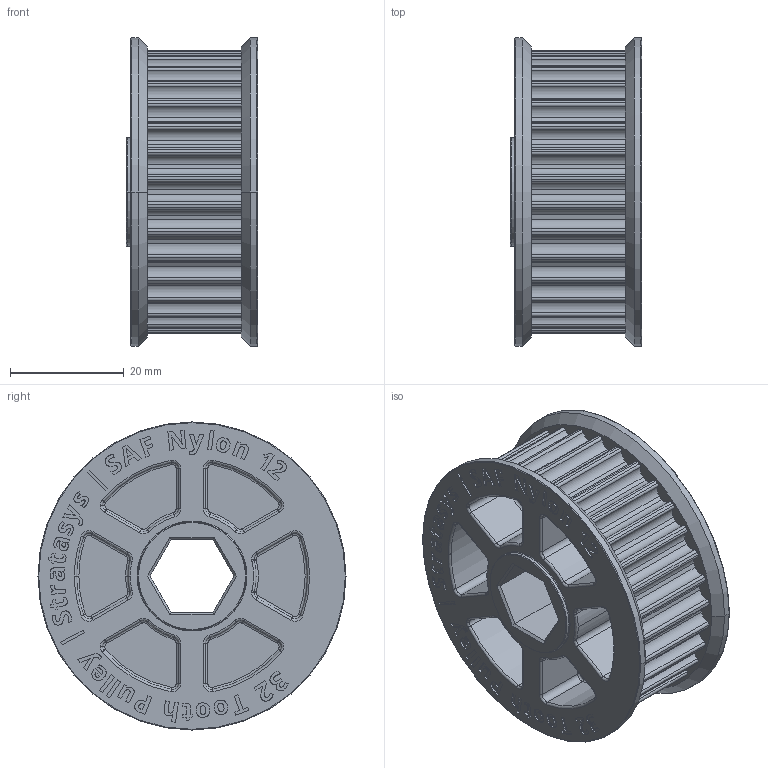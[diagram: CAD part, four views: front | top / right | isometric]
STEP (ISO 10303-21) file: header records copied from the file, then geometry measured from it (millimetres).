
FILE_DESCRIPTION (( 'STEP AP214' ), '1' );
FILE_NAME ('KB-26016_ Transition Pulley_1.step', '2025-12-23T15:52:44', ( '' ), ( '' ), 'SwSTEP 2.0', 'SolidWorks 2026', '' );
FILE_SCHEMA (( 'AUTOMOTIVE_DESIGN' ));
Length unit declared in the file: inch
Products named in the file (1): KB-26016_ Transition Pulley_1
Bounding box: 23.02 x 54.1 x 54.1 mm (x, y, z)
Volume: 26763 mm3; surface area: 15386.9 mm2
Topology: 1 solids, 1 shells, 2026 faces, 5547 edges, 3622 vertices
Faces by surface type: cylinder 811, plane 597, bspline 438, torus 176, cone 4
Entity records: 66426 total; most frequent: CARTESIAN_POINT 16760, ORIENTED_EDGE 11094, DIRECTION 9525, EDGE_CURVE 5547, VERTEX_POINT 3622, AXIS2_PLACEMENT_3D 3531, LINE 2463, VECTOR 2463
